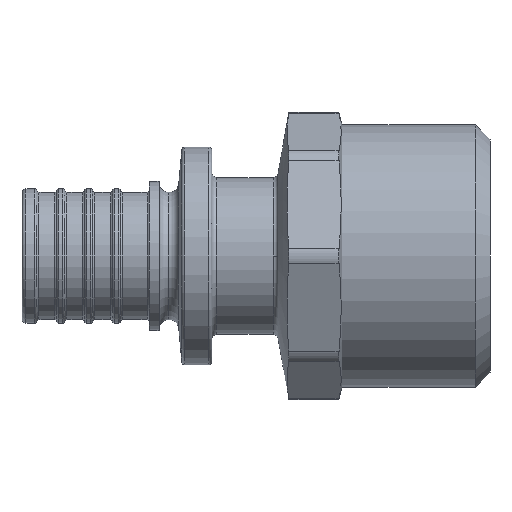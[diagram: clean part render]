
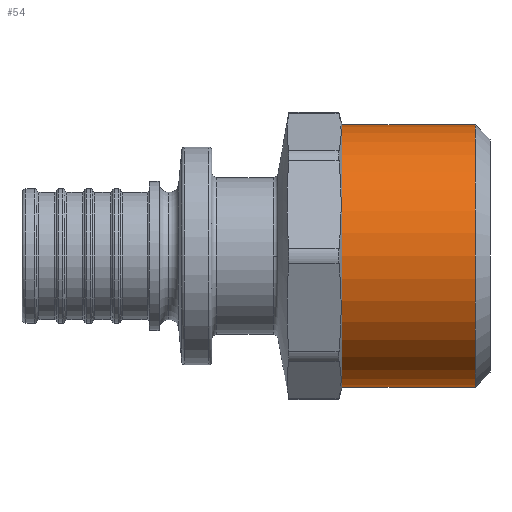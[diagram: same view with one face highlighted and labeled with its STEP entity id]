
A CAD part, left-side view. The second image highlights one B-rep face of the part: STEP entity #54.
In plain terms, the highlighted cylindrical face has radius 13.22 mm (diameter 26.441 mm), a full revolution.
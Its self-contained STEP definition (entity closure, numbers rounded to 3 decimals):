
#54=ADVANCED_FACE('',(#201,#203),#205,.T.);
#201=FACE_BOUND('',#202,.T.);
#202=EDGE_LOOP('',(#700,#701));
#203=FACE_OUTER_BOUND('',#204,.T.);
#204=EDGE_LOOP('',(#702));
#205=CYLINDRICAL_SURFACE('',#206,13.221);
#206=AXIS2_PLACEMENT_3D('',#207,#208,#209);
#207=CARTESIAN_POINT('',(0.,-9.1,0.));
#208=DIRECTION('',(0.,-1.,0.));
#209=DIRECTION('',(-1.,0.,0.));
#700=ORIENTED_EDGE('',*,*,#904,.T.);
#701=ORIENTED_EDGE('',*,*,#905,.T.);
#702=ORIENTED_EDGE('',*,*,#903,.F.);
#903=EDGE_CURVE('',#1023,#1023,#1024,.T.);
#904=EDGE_CURVE('',#1025,#1026,#1027,.F.);
#905=EDGE_CURVE('',#1026,#1025,#1028,.F.);
#1023=VERTEX_POINT('',#1260);
#1024=CIRCLE('',#1261,13.221);
#1025=VERTEX_POINT('',#1265);
#1026=VERTEX_POINT('',#1266);
#1027=CIRCLE('',#1267,13.221);
#1028=CIRCLE('',#1271,13.221);
#1260=CARTESIAN_POINT('',(-13.221,-23.5,0.));
#1261=AXIS2_PLACEMENT_3D('',#1262,#1263,#1264);
#1262=CARTESIAN_POINT('',(0.,-23.5,0.));
#1263=DIRECTION('',(0.,-1.,0.));
#1264=DIRECTION('',(-1.,0.,0.));
#1265=CARTESIAN_POINT('',(0.,-10.1,-13.221));
#1266=CARTESIAN_POINT('',(-13.221,-10.1,0.));
#1267=AXIS2_PLACEMENT_3D('',#1268,#1269,#1270);
#1268=CARTESIAN_POINT('',(0.,-10.1,0.));
#1269=DIRECTION('',(0.,1.,0.));
#1270=DIRECTION('',(-1.,0.,0.));
#1271=AXIS2_PLACEMENT_3D('',#1272,#1273,#1274);
#1272=CARTESIAN_POINT('',(0.,-10.1,0.));
#1273=DIRECTION('',(0.,1.,0.));
#1274=DIRECTION('',(0.,0.,-1.));
